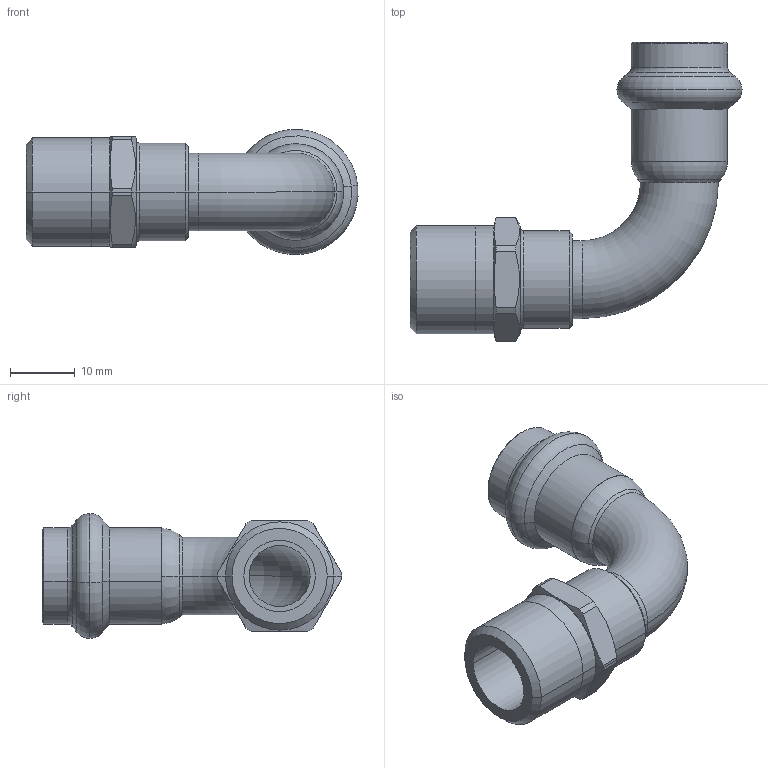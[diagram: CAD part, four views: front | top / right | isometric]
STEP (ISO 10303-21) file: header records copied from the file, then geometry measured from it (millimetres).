
FILE_DESCRIPTION(('CoCreate Modeling STEP Export'),'2;1');
FILE_NAME('8092GVW1238.stp','2013-03-05T11:18:02',(''),(''),'CoCreate Modeling STEP processor for AP214 (Solid Model)','CoCreate Modeling 17.00A 17-Jun-2010 (C) Parametric Technology GmbH','');
FILE_SCHEMA(('AUTOMOTIVE_DESIGN { 1 0 10303 214 1 1 1 1 }'));
Length unit declared in the file: millimetre
Products named in the file (2): 8092GVW1238
Assembly tree (1 placements, depth 2):
  8092GVW1238
    8092GVW1238
Bounding box: 51.13 x 46.08 x 19.26 mm (x, y, z)
Volume: 5809.3 mm3; surface area: 6202.4 mm2
Topology: 1 solids, 1 shells, 92 faces, 200 edges, 116 vertices
Faces by surface type: cylinder 34, cone 26, torus 18, plane 14
Entity records: 2637 total; most frequent: CARTESIAN_POINT 900, ORIENTED_EDGE 400, DIRECTION 290, EDGE_CURVE 200, VERTEX_POINT 116, AXIS2_PLACEMENT_3D 112, EDGE_LOOP 100, FACE_OUTER_BOUND 92
